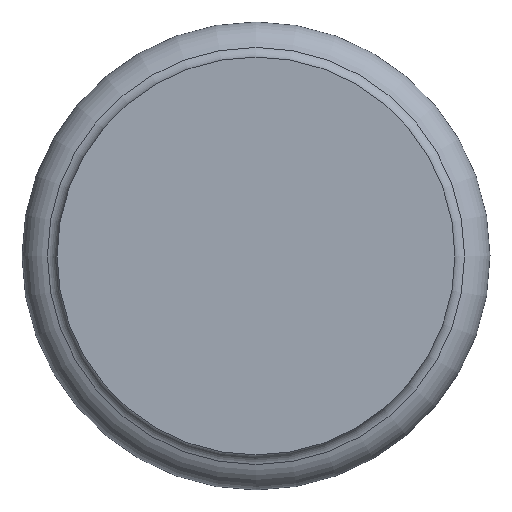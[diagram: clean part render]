
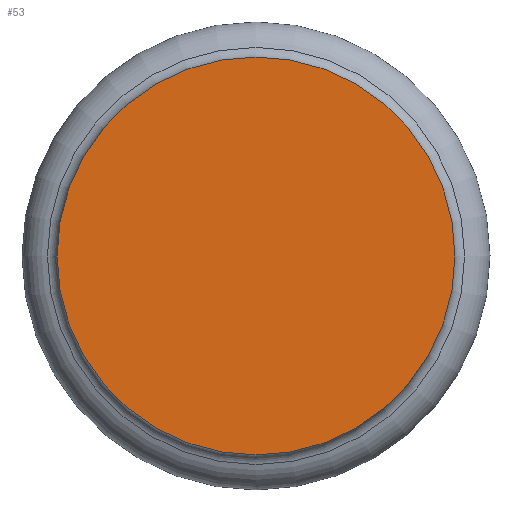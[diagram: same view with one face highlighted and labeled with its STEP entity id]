
A CAD part, front view. The second image highlights one B-rep face of the part: STEP entity #53.
In plain terms, the highlighted planar face has unit normal (0, -1, 0).
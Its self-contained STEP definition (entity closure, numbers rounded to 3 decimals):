
#53=ADVANCED_FACE('',(#64),#66,.T.);
#64=FACE_BOUND('',#65,.T.);
#65=EDGE_LOOP('',(#159));
#66=PLANE('',#67);
#67=AXIS2_PLACEMENT_3D('',#68,#69,#70);
#68=CARTESIAN_POINT('',(0.,-60.,0.));
#69=DIRECTION('',(0.,-1.,0.));
#70=DIRECTION('',(0.,0.,1.));
#159=ORIENTED_EDGE('',*,*,#179,.F.);
#179=EDGE_CURVE('',#189,#189,#190,.T.);
#189=VERTEX_POINT('',#209);
#190=CIRCLE('',#210,22.65);
#209=CARTESIAN_POINT('',(0.,-60.,22.65));
#210=AXIS2_PLACEMENT_3D('',#211,#212,#213);
#211=CARTESIAN_POINT('',(0.,-60.,0.));
#212=DIRECTION('',(0.,1.,0.));
#213=DIRECTION('',(0.,0.,1.));
